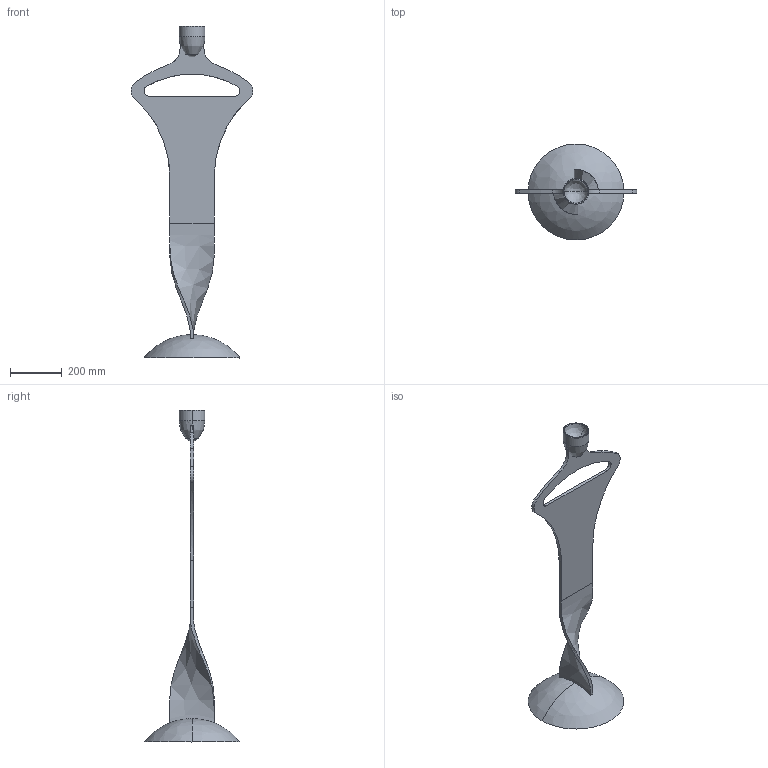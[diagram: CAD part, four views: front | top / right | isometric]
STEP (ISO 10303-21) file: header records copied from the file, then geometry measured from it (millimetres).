
FILE_DESCRIPTION(/* description */ (''),/* implementation_level */ '2;1');
FILE_NAME(/* name */ '072 - Homo Sapiens',/* time_stamp */ '2010-11-04T17:08:53+01:00',/* author */ (''),/* organization */ (''),/* preprocessor_version */ 'ST-DEVELOPER v10',/* originating_system */ '',/* authorisation */ '');
FILE_SCHEMA (('CONFIG_CONTROL_DESIGN'));
Length unit declared in the file: centimetre
Products named in the file (1): 1
Bounding box: 469.92 x 369.25 x 1280 mm (x, y, z)
Volume: 8371130.9 mm3; surface area: 806049.3 mm2
Topology: 4 solids, 4 shells, 47 faces, 112 edges, 70 vertices
Faces by surface type: bspline 32, plane 15
Entity records: 2336 total; most frequent: CARTESIAN_POINT 1577, ORIENTED_EDGE 216, EDGE_CURVE 108, VERTEX_POINT 70, B_SPLINE_CURVE_WITH_KNOTS 64, EDGE_LOOP 50, ADVANCED_FACE 47, FACE_OUTER_BOUND 47
